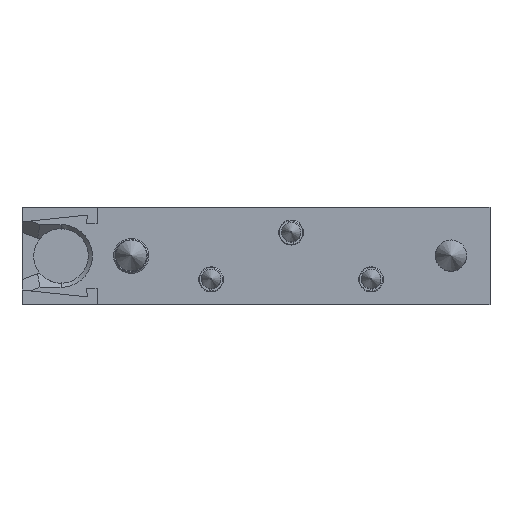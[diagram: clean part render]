
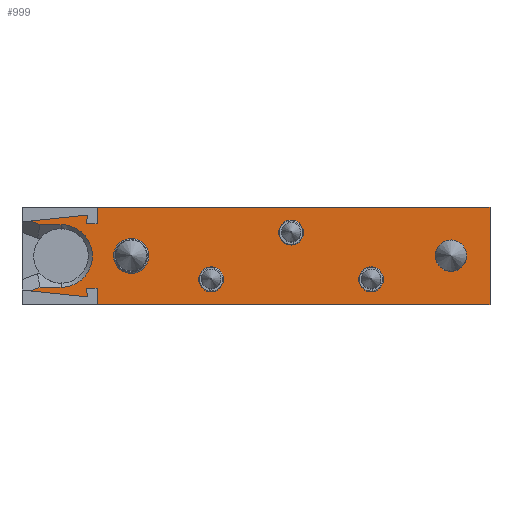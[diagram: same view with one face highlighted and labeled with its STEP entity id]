
A CAD part, top view. The second image highlights one B-rep face of the part: STEP entity #999.
In plain terms, the highlighted planar face has unit normal (0, 0, 1) as drawn and (0, 0, -1) by its records, which use the part's own axes.
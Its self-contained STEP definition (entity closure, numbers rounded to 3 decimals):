
#121=CIRCLE('',#1135,3.2);
#122=CIRCLE('',#1136,3.2);
#123=CIRCLE('',#1137,3.2);
#124=CIRCLE('',#1138,4.5);
#125=CIRCLE('',#1139,4.);
#126=CIRCLE('',#1140,8.05);
#175=ORIENTED_EDGE('',*,*,#399,.T.);
#176=ORIENTED_EDGE('',*,*,#400,.T.);
#177=ORIENTED_EDGE('',*,*,#401,.T.);
#178=ORIENTED_EDGE('',*,*,#402,.T.);
#179=ORIENTED_EDGE('',*,*,#403,.T.);
#180=ORIENTED_EDGE('',*,*,#404,.F.);
#181=ORIENTED_EDGE('',*,*,#405,.T.);
#182=ORIENTED_EDGE('',*,*,#406,.T.);
#183=ORIENTED_EDGE('',*,*,#407,.T.);
#184=ORIENTED_EDGE('',*,*,#408,.T.);
#185=ORIENTED_EDGE('',*,*,#409,.T.);
#186=ORIENTED_EDGE('',*,*,#410,.T.);
#187=ORIENTED_EDGE('',*,*,#411,.T.);
#188=ORIENTED_EDGE('',*,*,#412,.T.);
#189=ORIENTED_EDGE('',*,*,#413,.T.);
#190=ORIENTED_EDGE('',*,*,#414,.F.);
#191=ORIENTED_EDGE('',*,*,#415,.F.);
#192=ORIENTED_EDGE('',*,*,#416,.F.);
#193=ORIENTED_EDGE('',*,*,#417,.F.);
#194=ORIENTED_EDGE('',*,*,#418,.F.);
#195=ORIENTED_EDGE('',*,*,#419,.F.);
#399=EDGE_CURVE('',#511,#511,#121,.T.);
#400=EDGE_CURVE('',#512,#512,#122,.T.);
#401=EDGE_CURVE('',#513,#513,#123,.T.);
#402=EDGE_CURVE('',#514,#514,#124,.T.);
#403=EDGE_CURVE('',#515,#515,#125,.T.);
#404=EDGE_CURVE('',#516,#517,#602,.T.);
#405=EDGE_CURVE('',#516,#518,#603,.T.);
#406=EDGE_CURVE('',#518,#519,#604,.T.);
#407=EDGE_CURVE('',#519,#520,#605,.T.);
#408=EDGE_CURVE('',#520,#521,#606,.T.);
#409=EDGE_CURVE('',#521,#522,#607,.T.);
#410=EDGE_CURVE('',#522,#523,#608,.T.);
#411=EDGE_CURVE('',#523,#524,#126,.T.);
#412=EDGE_CURVE('',#524,#525,#609,.T.);
#413=EDGE_CURVE('',#525,#526,#610,.T.);
#414=EDGE_CURVE('',#527,#526,#611,.T.);
#415=EDGE_CURVE('',#528,#527,#612,.T.);
#416=EDGE_CURVE('',#529,#528,#613,.T.);
#417=EDGE_CURVE('',#530,#529,#614,.T.);
#418=EDGE_CURVE('',#531,#530,#615,.T.);
#419=EDGE_CURVE('',#517,#531,#616,.T.);
#511=VERTEX_POINT('',#1614);
#512=VERTEX_POINT('',#1616);
#513=VERTEX_POINT('',#1618);
#514=VERTEX_POINT('',#1620);
#515=VERTEX_POINT('',#1622);
#516=VERTEX_POINT('',#1624);
#517=VERTEX_POINT('',#1625);
#518=VERTEX_POINT('',#1627);
#519=VERTEX_POINT('',#1629);
#520=VERTEX_POINT('',#1631);
#521=VERTEX_POINT('',#1633);
#522=VERTEX_POINT('',#1635);
#523=VERTEX_POINT('',#1637);
#524=VERTEX_POINT('',#1639);
#525=VERTEX_POINT('',#1641);
#526=VERTEX_POINT('',#1643);
#527=VERTEX_POINT('',#1645);
#528=VERTEX_POINT('',#1647);
#529=VERTEX_POINT('',#1649);
#530=VERTEX_POINT('',#1651);
#531=VERTEX_POINT('',#1653);
#602=LINE('',#1623,#664);
#603=LINE('',#1626,#665);
#604=LINE('',#1628,#666);
#605=LINE('',#1630,#667);
#606=LINE('',#1632,#668);
#607=LINE('',#1634,#669);
#608=LINE('',#1636,#670);
#609=LINE('',#1640,#671);
#610=LINE('',#1642,#672);
#611=LINE('',#1644,#673);
#612=LINE('',#1646,#674);
#613=LINE('',#1648,#675);
#614=LINE('',#1650,#676);
#615=LINE('',#1652,#677);
#616=LINE('',#1654,#678);
#664=VECTOR('',#1288,1000.);
#665=VECTOR('',#1289,1000.);
#666=VECTOR('',#1290,1000.);
#667=VECTOR('',#1291,1000.);
#668=VECTOR('',#1292,1000.);
#669=VECTOR('',#1293,1000.);
#670=VECTOR('',#1294,1000.);
#671=VECTOR('',#1297,1000.);
#672=VECTOR('',#1298,1000.);
#673=VECTOR('',#1299,1000.);
#674=VECTOR('',#1300,1000.);
#675=VECTOR('',#1301,1000.);
#676=VECTOR('',#1302,1000.);
#677=VECTOR('',#1303,1000.);
#678=VECTOR('',#1304,1000.);
#723=EDGE_LOOP('',(#175));
#724=EDGE_LOOP('',(#176));
#725=EDGE_LOOP('',(#177));
#726=EDGE_LOOP('',(#178));
#727=EDGE_LOOP('',(#179));
#728=EDGE_LOOP('',(#180,#181,#182,#183,#184,#185,#186,#187,#188,#189,#190,
#191,#192,#193,#194,#195));
#842=FACE_BOUND('',#723,.T.);
#843=FACE_BOUND('',#724,.T.);
#844=FACE_BOUND('',#725,.T.);
#845=FACE_BOUND('',#726,.T.);
#846=FACE_BOUND('',#727,.T.);
#847=FACE_BOUND('',#728,.T.);
#963=PLANE('',#1134);
#999=ADVANCED_FACE('',(#842,#843,#844,#845,#846,#847),#963,.F.);
#1134=AXIS2_PLACEMENT_3D('',#1612,#1276,#1277);
#1135=AXIS2_PLACEMENT_3D('',#1613,#1278,#1279);
#1136=AXIS2_PLACEMENT_3D('',#1615,#1280,#1281);
#1137=AXIS2_PLACEMENT_3D('',#1617,#1282,#1283);
#1138=AXIS2_PLACEMENT_3D('',#1619,#1284,#1285);
#1139=AXIS2_PLACEMENT_3D('',#1621,#1286,#1287);
#1140=AXIS2_PLACEMENT_3D('',#1638,#1295,#1296);
#1276=DIRECTION('',(0.,0.,1.));
#1277=DIRECTION('',(1.,0.,0.));
#1278=DIRECTION('',(0.,0.,1.));
#1279=DIRECTION('',(1.,0.,0.));
#1280=DIRECTION('',(0.,0.,1.));
#1281=DIRECTION('',(1.,0.,0.));
#1282=DIRECTION('',(0.,0.,1.));
#1283=DIRECTION('',(1.,0.,0.));
#1284=DIRECTION('',(0.,0.,1.));
#1285=DIRECTION('',(1.,0.,0.));
#1286=DIRECTION('',(0.,0.,1.));
#1287=DIRECTION('',(1.,0.,0.));
#1288=DIRECTION('',(-1.,0.,0.));
#1289=DIRECTION('',(0.,-1.,0.));
#1290=DIRECTION('',(1.,0.,0.));
#1291=DIRECTION('',(-0.087,0.996,0.));
#1292=DIRECTION('',(0.995,-0.105,0.));
#1293=DIRECTION('',(-0.94,-0.342,0.));
#1294=DIRECTION('',(-1.,0.,0.));
#1295=DIRECTION('',(0.,0.,1.));
#1296=DIRECTION('',(1.,0.,0.));
#1297=DIRECTION('',(1.,0.,0.));
#1298=DIRECTION('',(0.94,-0.342,0.));
#1299=DIRECTION('',(0.995,0.105,0.));
#1300=DIRECTION('',(-0.087,-0.996,0.));
#1301=DIRECTION('',(1.,0.,0.));
#1302=DIRECTION('',(0.,1.,0.));
#1303=DIRECTION('',(1.,0.,0.));
#1304=DIRECTION('',(0.,-1.,0.));
#1612=CARTESIAN_POINT('',(-60.,12.5,-5.));
#1613=CARTESIAN_POINT('',(-29.5,-6.,-5.));
#1614=CARTESIAN_POINT('',(-26.3,-6.,-5.));
#1615=CARTESIAN_POINT('',(-9.,6.,-5.));
#1616=CARTESIAN_POINT('',(-5.8,6.,-5.));
#1617=CARTESIAN_POINT('',(11.5,-6.,-5.));
#1618=CARTESIAN_POINT('',(14.7,-6.,-5.));
#1619=CARTESIAN_POINT('',(32.,0.,-5.));
#1620=CARTESIAN_POINT('',(36.5,0.,-5.));
#1621=CARTESIAN_POINT('',(-50.,0.,-5.));
#1622=CARTESIAN_POINT('',(-46.,0.,-5.));
#1623=CARTESIAN_POINT('',(60.,12.5,-5.));
#1624=CARTESIAN_POINT('',(40.75,12.5,-5.));
#1625=CARTESIAN_POINT('',(-60.,12.5,-5.));
#1626=CARTESIAN_POINT('',(40.75,12.5,-5.));
#1627=CARTESIAN_POINT('',(40.75,8.25,-5.));
#1628=CARTESIAN_POINT('',(-60.,8.25,-5.));
#1629=CARTESIAN_POINT('',(43.447,8.25,-5.));
#1630=CARTESIAN_POINT('',(42.292,21.449,-5.));
#1631=CARTESIAN_POINT('',(43.25,10.5,-5.));
#1632=CARTESIAN_POINT('',(-59.08,21.255,-5.));
#1633=CARTESIAN_POINT('',(57.887,8.962,-5.));
#1634=CARTESIAN_POINT('',(54.803,7.839,-5.));
#1635=CARTESIAN_POINT('',(55.383,8.05,-5.));
#1636=CARTESIAN_POINT('',(50.,8.05,-5.));
#1637=CARTESIAN_POINT('',(50.,8.05,-5.));
#1638=CARTESIAN_POINT('',(50.,0.,-5.));
#1639=CARTESIAN_POINT('',(50.,-8.05,-5.));
#1640=CARTESIAN_POINT('',(56.,-8.05,-5.));
#1641=CARTESIAN_POINT('',(55.383,-8.05,-5.));
#1642=CARTESIAN_POINT('',(58.803,-9.295,-5.));
#1643=CARTESIAN_POINT('',(57.887,-8.962,-5.));
#1644=CARTESIAN_POINT('',(-56.481,-20.982,-5.));
#1645=CARTESIAN_POINT('',(43.25,-10.5,-5.));
#1646=CARTESIAN_POINT('',(44.463,3.361,-5.));
#1647=CARTESIAN_POINT('',(43.447,-8.25,-5.));
#1648=CARTESIAN_POINT('',(-60.,-8.25,-5.));
#1649=CARTESIAN_POINT('',(40.75,-8.25,-5.));
#1650=CARTESIAN_POINT('',(40.75,12.5,-5.));
#1651=CARTESIAN_POINT('',(40.75,-12.5,-5.));
#1652=CARTESIAN_POINT('',(-60.,-12.5,-5.));
#1653=CARTESIAN_POINT('',(-60.,-12.5,-5.));
#1654=CARTESIAN_POINT('',(-60.,12.5,-5.));
